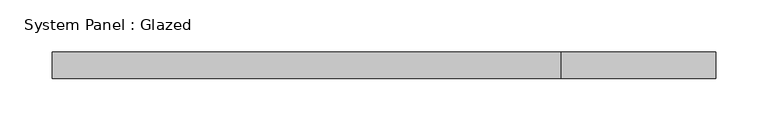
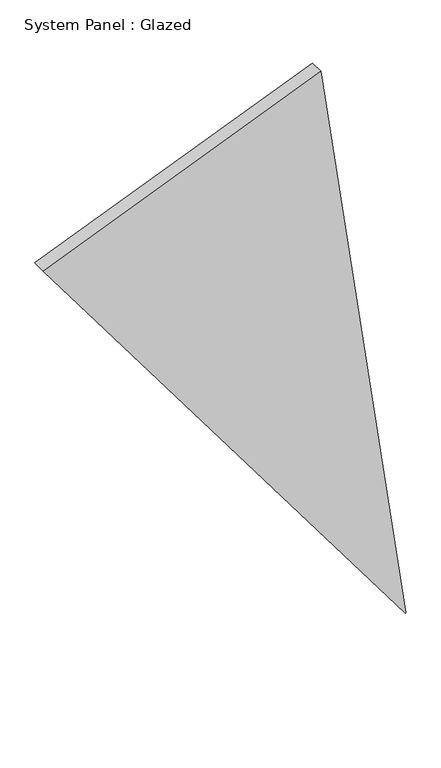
"""IFC4 building model written with IfcOpenShell, lengths in millimetres: plate geometry, System Panel : Glazed."""

from ifc_helpers import new_model, si_unit, frame, origin, place, context, project, spatial, polyline, outline, extrude, source, transform, mapped, element, save


def system_panel_glazed_ea2c9918(model_context):
    return source(origin(), model_context, "Body", "SweptSolid", [
        extrude(outline(polyline([(0.0, 316.48452), (0.4770639, 317.6477276), (1054.3183553, 169.0256633), (854.7199998, -317.6477276), (0.0, 316.48452)])), frame((0.0, -44.45, 0.0), z_axis=(0.0, 1.0, 0.0), x_axis=(0.0, 0.0, 1.0)), (0.0, 0.0, 1.0), 25.4),
    ])


if __name__ == "__main__":
    model = new_model("IFC4")
    model_context = context("Model", 3, world=origin())
    ifc_project = project(units=[si_unit("LENGTHUNIT", "METRE", prefix="MILLI")], contexts=[model_context])
    site = spatial("IfcSite", under=ifc_project)
    building = spatial("IfcBuilding", under=site)
    placement = place(None, origin())
    system_panel_glazed_shape = system_panel_glazed_ea2c9918(model_context)
    element("IfcPlate", 1, ObjectType="System Panel : Glazed", at=placement, inside=building, context=model_context, shape_type="MappedRepresentation", body=[
        mapped(system_panel_glazed_shape, transform((0.0, 0.0, 0.0), x_axis=(1.0, 0.0, 0.0), y_axis=(0.0, 1.0, 0.0), z_axis=(0.0, 0.0, 1.0))),
    ])
    save(model, "model.ifc")
